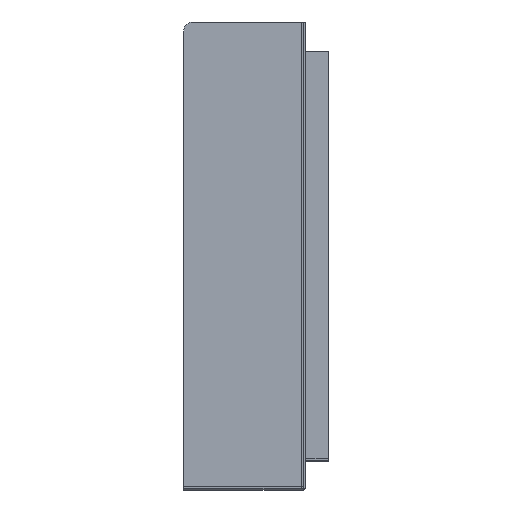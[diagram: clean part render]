
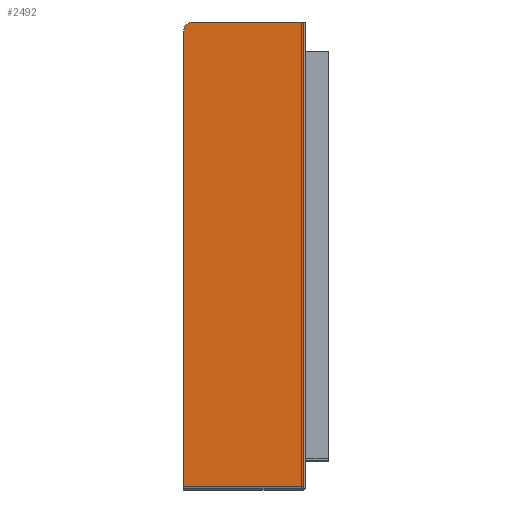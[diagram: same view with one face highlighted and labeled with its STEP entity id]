
A CAD part, left-side view. The second image highlights one B-rep face of the part: STEP entity #2492.
In plain terms, the highlighted planar face has unit normal (-1, 0, 0).
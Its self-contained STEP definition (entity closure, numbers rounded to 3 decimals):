
#177=PLANE('',#2673);
#313=FACE_OUTER_BOUND('',#459,.T.);
#459=EDGE_LOOP('',(#2311,#2312,#2313,#2314,#2315));
#477=LINE('',#3331,#747);
#480=LINE('',#3338,#750);
#542=LINE('',#3623,#812);
#730=LINE('',#4496,#1000);
#747=VECTOR('',#2739,10.);
#750=VECTOR('',#2746,10.);
#812=VECTOR('',#2816,10.);
#1000=VECTOR('',#3264,10.);
#1044=CIRCLE('',#2594,10.);
#1057=VERTEX_POINT('',#3300);
#1067=VERTEX_POINT('',#3329);
#1068=VERTEX_POINT('',#3334);
#1149=VERTEX_POINT('',#3622);
#1195=VERTEX_POINT('',#3772);
#1304=EDGE_CURVE('',#1067,#1057,#477,.T.);
#1308=EDGE_CURVE('',#1057,#1068,#480,.T.);
#1390=EDGE_CURVE('',#1068,#1149,#542,.T.);
#1461=EDGE_CURVE('',#1149,#1195,#1044,.T.);
#1628=EDGE_CURVE('',#1067,#1195,#730,.T.);
#2311=ORIENTED_EDGE('',*,*,#1304,.F.);
#2312=ORIENTED_EDGE('',*,*,#1628,.T.);
#2313=ORIENTED_EDGE('',*,*,#1461,.F.);
#2314=ORIENTED_EDGE('',*,*,#1390,.F.);
#2315=ORIENTED_EDGE('',*,*,#1308,.F.);
#2492=ADVANCED_FACE('',(#313),#177,.T.);
#2594=AXIS2_PLACEMENT_3D('',#3773,#2958,#2959);
#2673=AXIS2_PLACEMENT_3D('',#4495,#3262,#3263);
#2739=DIRECTION('',(0.,0.,-1.));
#2746=DIRECTION('',(0.,1.,0.));
#2816=DIRECTION('',(0.,0.,1.));
#2958=DIRECTION('center_axis',(1.,0.,0.));
#2959=DIRECTION('ref_axis',(0.,0.707,0.707));
#3262=DIRECTION('center_axis',(-1.,0.,0.));
#3263=DIRECTION('ref_axis',(0.,0.,1.));
#3264=DIRECTION('',(0.,1.,0.));
#3300=CARTESIAN_POINT('',(-250.,2.,-248.));
#3329=CARTESIAN_POINT('',(-250.,2.,250.));
#3331=CARTESIAN_POINT('',(-250.,2.,-125.));
#3334=CARTESIAN_POINT('',(-250.,130.,-248.));
#3338=CARTESIAN_POINT('',(-250.,0.,-248.));
#3622=CARTESIAN_POINT('',(-250.,130.,240.));
#3623=CARTESIAN_POINT('',(-250.,130.,-250.));
#3772=CARTESIAN_POINT('',(-250.,120.,250.));
#3773=CARTESIAN_POINT('Origin',(-250.,120.,240.));
#4495=CARTESIAN_POINT('Origin',(-250.,0.,-250.));
#4496=CARTESIAN_POINT('',(-250.,0.,250.));
